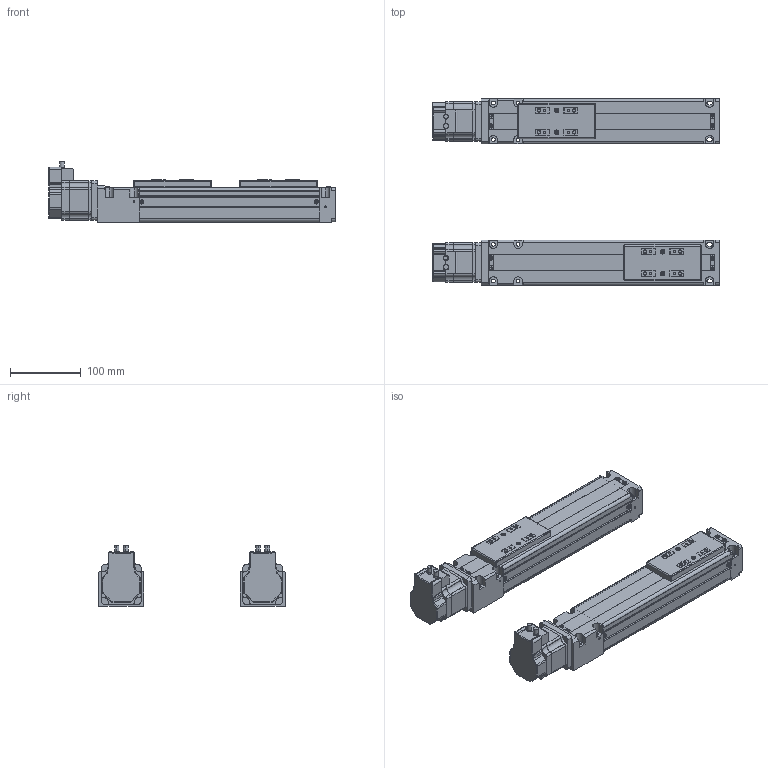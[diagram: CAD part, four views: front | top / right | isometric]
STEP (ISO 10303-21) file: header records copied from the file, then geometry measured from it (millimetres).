
FILE_DESCRIPTION(('STEP AP214'),'1');
FILE_NAME('Z:\外形図\3D DAD2\SCLT6_B\tmp0.step',' ',(' '),(' '),'XStep 1.0',' ',' ');
FILE_SCHEMA(('automotive_design'));
Length unit declared in the file: millimetre
Products named in the file (20): 2; 6; 10; VLAST60-06-0150-0-0N (0) (150)|_VLA-ST-60-12-0150 Body;_VLA-ST-60-12-0150 Body; 5; 12; VLAST60-06-0150-0-0N (0) (150)|_VLA-ST-60-12-0050 Slider;_VLA-ST-60-12-0050 Slider; 11; 4; 9; 1; 7; 8; 3
Bounding box: 406 x 264 x 85.99 mm (x, y, z)
Volume: 1229376.3 mm3; surface area: 477244.7 mm2
Topology: 20 solids, 20 shells, 1634 faces, 4310 edges, 2728 vertices
Faces by surface type: plane 992, cylinder 416, cone 140, bspline 78, sphere 8
Entity records: 65815 total; most frequent: CARTESIAN_POINT 11334, ORIENTED_EDGE 8572, DIRECTION 8422, EDGE_CURVE 4286, LINE 3118, VECTOR 3118, VERTEX_POINT 2728, AXIS2_PLACEMENT_3D 2652
